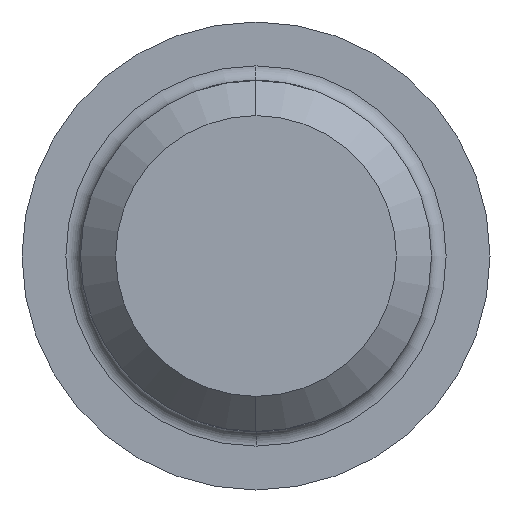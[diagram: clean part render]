
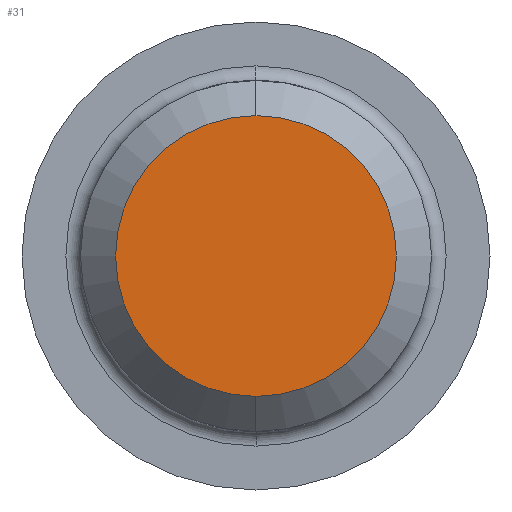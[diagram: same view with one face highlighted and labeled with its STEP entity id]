
A CAD part, left-side view. The second image highlights one B-rep face of the part: STEP entity #31.
In plain terms, the highlighted planar face has unit normal (-1, 0, 0).
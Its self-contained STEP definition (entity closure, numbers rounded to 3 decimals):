
#17 = CARTESIAN_POINT ( 'NONE',  ( -80., 0., -4.8 ) ) ;
#23 = EDGE_CURVE ( 'NONE', #181, #184, #196, .T. ) ;
#30 = ORIENTED_EDGE ( 'NONE', *, *, #180, .T. ) ;
#31 = ADVANCED_FACE ( 'NONE', ( #54 ), #34, .F. ) ;
#32 = ORIENTED_EDGE ( 'NONE', *, *, #23, .T. ) ;
#33 = CARTESIAN_POINT ( 'NONE',  ( -80., 4.8, 0. ) ) ;
#34 = PLANE ( 'NONE',  #75 ) ;
#37 = EDGE_LOOP ( 'NONE', ( #32, #30 ) ) ;
#54 = FACE_OUTER_BOUND ( 'NONE', #37, .T. ) ;
#56 = DIRECTION ( 'NONE',  ( 0., 0., 1. ) ) ;
#57 = DIRECTION ( 'NONE',  ( -1., 0., 0. ) ) ;
#58 = CARTESIAN_POINT ( 'NONE',  ( -80., 0., 0. ) ) ;
#61 = AXIS2_PLACEMENT_3D ( 'NONE', #58, #57, #56 ) ;
#69 = DIRECTION ( 'NONE',  ( 0., 0., -1. ) ) ;
#70 = DIRECTION ( 'NONE',  ( 1., 0., 0. ) ) ;
#75 = AXIS2_PLACEMENT_3D ( 'NONE', #33, #70, #69 ) ;
#180 = EDGE_CURVE ( 'NONE', #184, #181, #284, .T. ) ;
#181 = VERTEX_POINT ( 'NONE', #17 ) ;
#184 = VERTEX_POINT ( 'NONE', #217 ) ;
#196 = CIRCLE ( 'NONE', #61, 4.8 ) ;
#211 = AXIS2_PLACEMENT_3D ( 'NONE', #280, #279, #278 ) ;
#217 = CARTESIAN_POINT ( 'NONE',  ( -80., 0., 4.8 ) ) ;
#278 = DIRECTION ( 'NONE',  ( 0., 0., 1. ) ) ;
#279 = DIRECTION ( 'NONE',  ( -1., 0., 0. ) ) ;
#280 = CARTESIAN_POINT ( 'NONE',  ( -80., 0., 0. ) ) ;
#284 = CIRCLE ( 'NONE', #211, 4.8 ) ;
